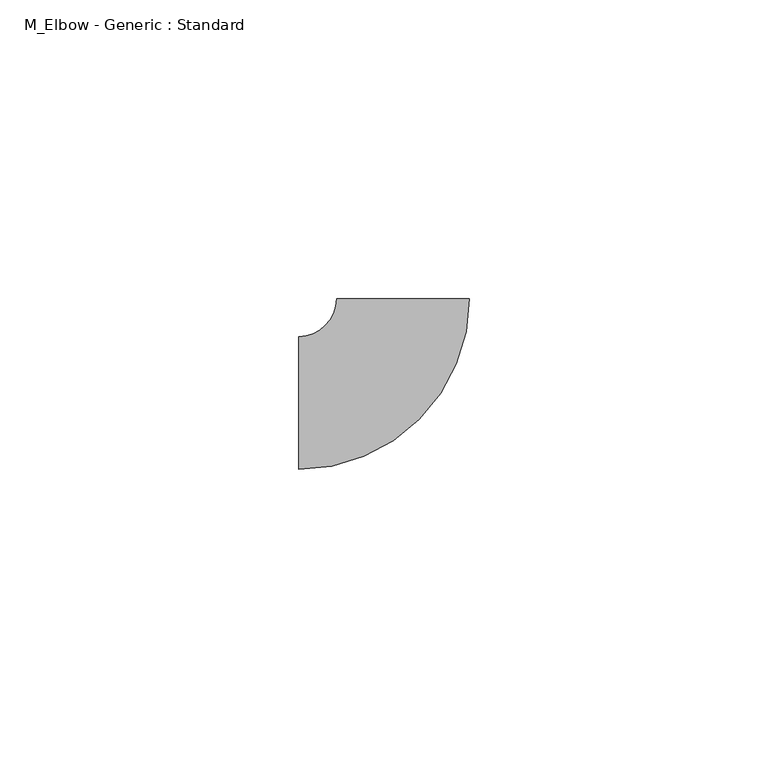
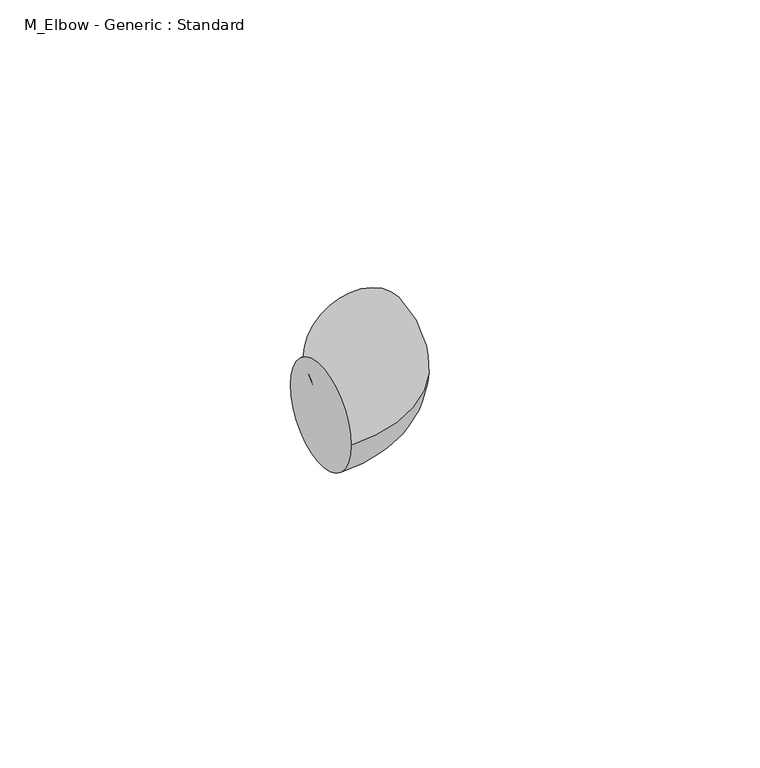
"""IFC4 building model written with IfcOpenShell, lengths in millimetres: pipe fitting geometry, M_Elbow - Generic : Standard."""

from ifc_helpers import new_model, si_unit, point, frame, origin, place, context, project, spatial, circle_curve, ellipse_curve, trimmed, source, transform, mapped, element, save
from ifc_brep_helpers import plane_surface, revolved_surface, advanced_brep


def m_elbow_generic_standard_738589b0(model_context):
    return source(origin(), model_context, "Body", "AdvancedBrep", [
        advanced_brep(
        [(-17.4625, -11.1125, 0.0), (-17.4625, 11.1125, 0.0), (11.1125, 17.4625, 0.0), (-11.1125, 17.4625, 0.0)],
        [
            (0, 1, circle_curve(frame((-17.4625, 0.0, 0.0), z_axis=(-1.0, 0.0, 0.0), x_axis=(0.0, 1.0, 0.0)), 11.1125)),
            (1, 0, circle_curve(frame((-17.4625, 0.0, 0.0), z_axis=(-1.0, 0.0, 0.0), x_axis=(0.0, 1.0, 0.0)), 11.1125)),
            (2, 3, circle_curve(frame((0.0, 17.4625, 0.0), z_axis=(0.0, 1.0, 0.0), x_axis=(-1.0, 0.0, 0.0)), 11.1125)),
            (3, 2, circle_curve(frame((0.0, 17.4625, 0.0), z_axis=(0.0, 1.0, 0.0), x_axis=(-1.0, 0.0, 0.0)), 11.1125)),
            (3, 1, circle_curve(frame((-17.4625, 17.4625, 0.0), z_axis=(0.0, 0.0, -1.0), x_axis=(0.0, -1.0, 0.0)), 6.35)),
            (0, 2, circle_curve(frame((-17.4625, 17.4625, 0.0), z_axis=(0.0, 0.0, 1.0), x_axis=(0.0, -1.0, 0.0)), 28.575)),
        ],
        [
            plane_surface(frame((-17.4625, 0.0, 0.0), z_axis=(-1.0, 0.0, 0.0), x_axis=(0.0, 0.0, 1.0))),
            plane_surface(frame((0.0, 17.4625, 0.0), z_axis=(0.0, 1.0, 0.0), x_axis=(0.0, 0.0, 1.0))),
            revolved_surface(trimmed(ellipse_curve(frame((-17.4625, 0.0, 0.0), z_axis=(-1.0, 0.0, 0.0), x_axis=(0.0, 1.0, 0.0)), 11.1125, 11.1125), [point((-17.4625, -11.1125, 0.0))], [point((-17.4625, 11.1125, 0.0))], True, "CARTESIAN"), (-17.4625, 17.4625, 0.0), (0.0, 0.0, 1.0)),
            revolved_surface(trimmed(ellipse_curve(frame((-17.4625, 0.0, 0.0), z_axis=(-1.0, 0.0, 0.0), x_axis=(0.0, 1.0, 0.0)), 11.1125, 11.1125), [point((-17.4625, 11.1125, 0.0))], [point((-17.4625, -11.1125, 0.0))], True, "CARTESIAN"), (-17.4625, 17.4625, 0.0), (0.0, 0.0, 1.0)),
        ],
        [
            (0, [[1, 2]]),
            (1, [[3, 4]]),
            (2, [[5, -1, 6, -4]]),
            (3, [[-6, -2, -5, -3]]),
        ],
    ),
    ])


if __name__ == "__main__":
    model = new_model("IFC4")
    model_context = context("Model", 3, world=origin())
    ifc_project = project(units=[si_unit("LENGTHUNIT", "METRE", prefix="MILLI")], contexts=[model_context])
    site = spatial("IfcSite", under=ifc_project)
    building = spatial("IfcBuilding", under=site)
    placement = place(None, origin())
    m_elbow_generic_standard_shape = m_elbow_generic_standard_738589b0(model_context)
    element("IfcPipeFitting", 1, ObjectType="M_Elbow - Generic : Standard", at=placement, inside=building, context=model_context, shape_type="MappedRepresentation", body=[
        mapped(m_elbow_generic_standard_shape, transform((0.0, 0.0, 0.0), x_axis=(1.0, 0.0, 0.0), y_axis=(0.0, 1.0, 0.0), z_axis=(0.0, 0.0, 1.0))),
    ])
    save(model, "model.ifc")
